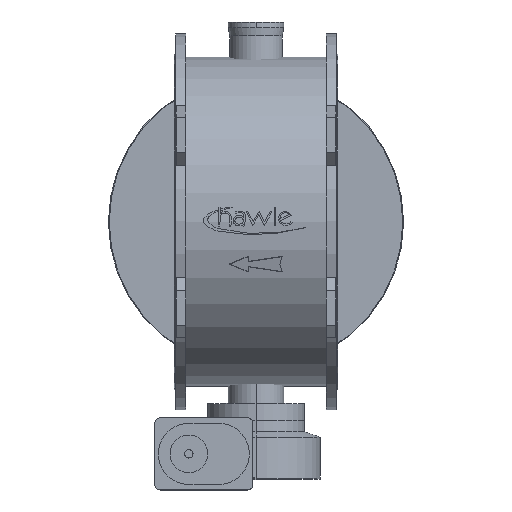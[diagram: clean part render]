
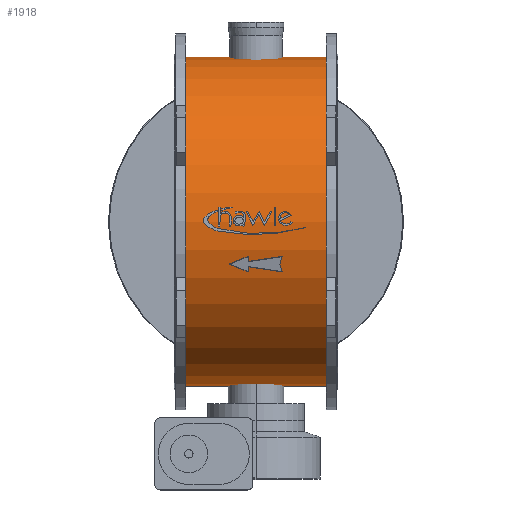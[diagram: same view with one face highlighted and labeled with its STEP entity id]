
A CAD part, top view. The second image highlights one B-rep face of the part: STEP entity #1918.
In plain terms, the highlighted cylindrical face has radius 593 mm (diameter 1186 mm), a partial arc.
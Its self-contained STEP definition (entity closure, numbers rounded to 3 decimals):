
#1918=ADVANCED_FACE('',(#3678),#3679,.T.);
#3678=FACE_OUTER_BOUND('',#5599,.T.);
#3679=CYLINDRICAL_SURFACE('',#5600,593.0);
#5599=EDGE_LOOP('',(#9406,#9407,#9408,#9409));
#5600=AXIS2_PLACEMENT_3D('',#9410,#9411,#9412);
#9406=ORIENTED_EDGE('',*,*,#11272,.T.);
#9407=ORIENTED_EDGE('',*,*,#10770,.T.);
#9408=ORIENTED_EDGE('',*,*,#11273,.T.);
#9409=ORIENTED_EDGE('',*,*,#10167,.T.);
#9410=CARTESIAN_POINT('',(-547.5,0.,0.0));
#9411=DIRECTION('',(1.0,0.,0.0));
#9412=DIRECTION('',(0.,-1.0,0.0));
#10167=EDGE_CURVE('',#11880,#11879,#11882,.T.);
#10770=EDGE_CURVE('',#12899,#12900,#12901,.T.);
#11272=EDGE_CURVE('',#11879,#12899,#13608,.T.);
#11273=EDGE_CURVE('',#12900,#11880,#13609,.T.);
#11879=VERTEX_POINT('',#14314);
#11880=VERTEX_POINT('',#14315);
#11882=CIRCLE('',#14317,593.0);
#12899=VERTEX_POINT('',#15583);
#12900=VERTEX_POINT('',#15584);
#12901=CIRCLE('',#15585,593.0);
#13608=LINE('',#16480,#16481);
#13609=LINE('',#16482,#16483);
#14314=CARTESIAN_POINT('',(-547.5,-593.0,0.0));
#14315=CARTESIAN_POINT('',(-547.5,593.0,0.));
#14317=AXIS2_PLACEMENT_3D('',#17254,#17255,#17256);
#15583=CARTESIAN_POINT('',(-42.5,-593.0,0.0));
#15584=CARTESIAN_POINT('',(-42.5,593.0,0.));
#15585=AXIS2_PLACEMENT_3D('',#18181,#18182,#18183);
#16480=CARTESIAN_POINT('',(-547.5,-593.0,0.));
#16481=VECTOR('',#18861,1.0);
#16482=CARTESIAN_POINT('',(-547.5,593.0,0.));
#16483=VECTOR('',#18862,1.0);
#17254=CARTESIAN_POINT('',(-547.5,0.,0.0));
#17255=DIRECTION('',(1.0,0.,0.0));
#17256=DIRECTION('',(0.,-1.0,0.0));
#18181=CARTESIAN_POINT('',(-42.5,0.,0.0));
#18182=DIRECTION('',(-1.0,0.,0.0));
#18183=DIRECTION('',(0.,-1.0,0.0));
#18861=DIRECTION('',(1.0,0.,0.0));
#18862=DIRECTION('',(-1.0,0.,-0.0));
